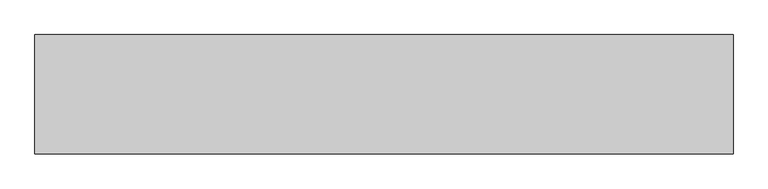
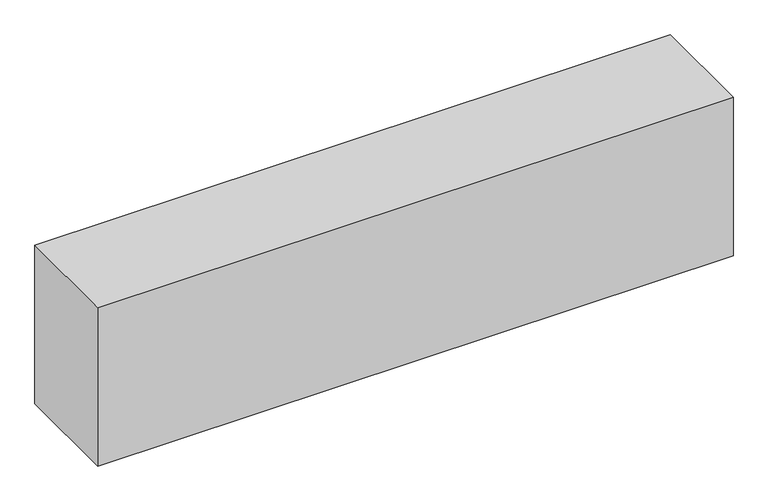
"""IFC4 building model written with IfcOpenShell, lengths in millimetres: proxy geometry, Plan de travail : Plan de travail."""

from ifc_helpers import new_model, si_unit, frame, origin, place, context, project, spatial, polyline, outline, extrude, source, transform, mapped, element, save


def generic_models_af12e95c(model_context):
    return source(origin(), model_context, "Body", "SweptSolid", [
        extrude(outline(polyline([(-12472.7391731, -4829.1151395), (-15790.2391735, -4829.1151395), (-15790.2391735, -4262.2263955), (-12472.7391731, -4262.2263955), (-12472.7391731, -4829.1151395)])), frame((0.0, 0.0, 3361.8727639), z_axis=(0.0, 0.0, 1.0), x_axis=(1.0, 0.0, 0.0)), (0.0, 0.0, 1.0), 874.3577447),
    ])


if __name__ == "__main__":
    model = new_model("IFC4")
    model_context = context("Model", 3, world=origin())
    ifc_project = project(units=[si_unit("LENGTHUNIT", "METRE", prefix="MILLI")], contexts=[model_context])
    site = spatial("IfcSite", under=ifc_project)
    building = spatial("IfcBuilding", under=site)
    placement = place(None, origin())
    generic_models_shape = generic_models_af12e95c(model_context)
    element("IfcBuildingElementProxy", 1, Name="Plan de travail : Plan de travail", ObjectType="Plan de travail : Plan de travail", at=placement, inside=building, context=model_context, shape_type="MappedRepresentation", body=[
        mapped(generic_models_shape, transform((0.0, 0.0, 0.0), x_axis=(1.0, 0.0, 0.0), y_axis=(0.0, 1.0, 0.0), z_axis=(0.0, 0.0, 1.0))),
    ])
    save(model, "model.ifc")
